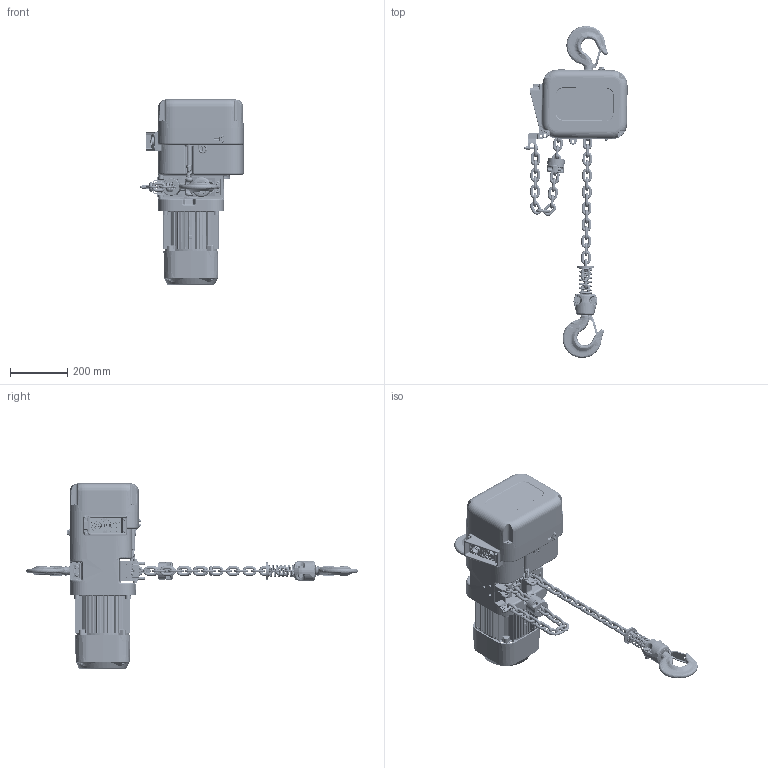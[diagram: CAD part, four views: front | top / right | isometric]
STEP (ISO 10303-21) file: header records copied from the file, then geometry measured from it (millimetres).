
FILE_DESCRIPTION (( 'STEP AP214' ), '1' );
FILE_NAME ('NER2020L.STEP', '2025-10-10T19:02:09', ( '' ), ( '' ), 'SwSTEP 2.0', 'SolidWorks 2025', '' );
FILE_SCHEMA (( 'AUTOMOTIVE_DESIGN' ));
Length unit declared in the file: millimetre
Products named in the file (51): ES558003; ER2ES1001; MS561010; LCER2020NP (SHAPED 2); ER2EL9105; ER2ES2015; ER2CS9511; 9093427_9093427; LCER2020NP-FG_10 LINKS; ER2ES9011; ER2ES1002; 9012711_9012711; ER2ES1011-FG; ER2ES2523; ER2BHM20S9A5; 90912152_B18.3.1M - 8 x 1.25 x 40 Hex SHCS -- 40CHX; ER1ES9054; ER2ES9408; ER2ES9121; ER1ES1041; ER1BS9135; ER2ES9186; ER2CS2564; NER2020L; 90912116_90912116; E3S112003; ER2ES9101; ER2EL9103; ENDS2E; ER2CS9357; J1WS011-20100_Rectangular section spring washer BS 4464 - 16 (Type B); M6F554010; ER2EL9338; ER2ES9104_ER2ES9104; ER2ES9123; E3S111003; ER1ES9053; ER1BS9535; ER2ES9015; 9091274_9091274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
Assembly tree (131 placements, depth 4):
  NER2020L
    ER2ES9104_ER2ES9104
    ER2DS9107_ER2DS9107
    ER2EL9103
    ER2EL9105
    ER2ES9101
    ER2ES1001
      ER2ES9001
      ER2ES1002
    ER2ES9121  x2
    ER2ES9123
    9091274_9091274  x5
    ER2ES9186
    ER2ES9331
    ER2EL9338
    ER2ES9337
    ER2CS9357
    ER2CS9511
    LCER2020NP-FG_10 LINKS
      LCER2020NP  x22
    ER2ES1011-FG
      ER2ES9011
      ER2ES1002
      ER2ES2015
        ER2ES9015  x2
        J1BY9-1003526_B18.2.3.1M - Hex cap screw, M10 x 1.5 x 35 --35C  x2
        J1WS011-20100_Rectangular section spring washer BS 4464 - 16 (Type B)  x2
        9093427_9093427  x2
    ER2ES2523
    ER2CS2564
    E3S112003
    E3S111003
    ES127005S
    ER1BS9135
    90912116_90912116  x4
    9091234_B18.3.1M - 5 x 0.8 x 45 Hex SHCS -- 22CHX  x4
    9012711_9012711  x4
    ES047015
    ER1ES9054
    J1BG10504022_J1BG10504022  x4
    ER1BS9535
    M6F554010  x3
    MS561010  x6
    ES558003  x9
    ER2BHM20S9A5
    ENDS2E
      ER2ES9408
      90912152_B18.3.1M - 8 x 1.25 x 40 Hex SHCS -- 40CHX
      ES857005S
    LCER2020NP (SHAPED 2)
      LCER2020NP  x23
    ER1ES9053
    ER1ES1041
Bounding box: 360.19 x 1159.02 x 646 mm (x, y, z)
Volume: 21742130.2 mm3; surface area: 2055893.7 mm2
Topology: 144 solids, 145 shells, 6142 faces, 15691 edges, 9718 vertices
Faces by surface type: cylinder 2332, plane 2009, torus 722, bspline 490, cone 376, sphere 213
Entity records: 190347 total; most frequent: CARTESIAN_POINT 75936, DIRECTION 23420, ORIENTED_EDGE 23202, EDGE_CURVE 11601, AXIS2_PLACEMENT_3D 9045, VERTEX_POINT 7337, VECTOR 5330, LINE 5330
